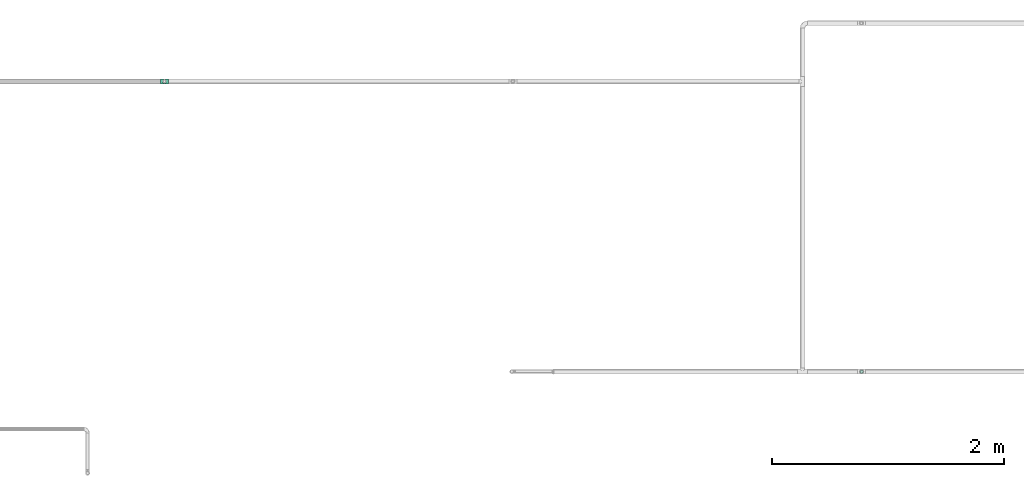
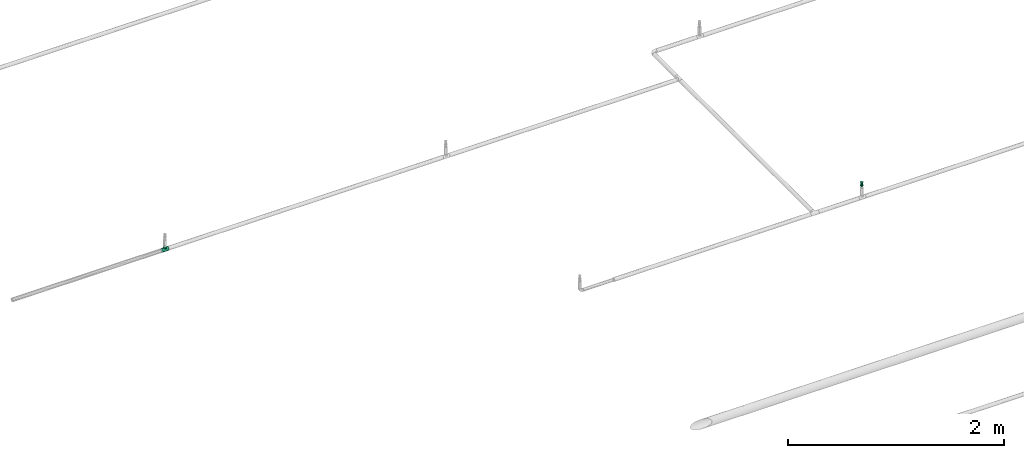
# One storey, part 41 of 94: 1 flow fitting, 1 flow terminal.
"""IFC2X3 building model written with IfcOpenShell, lengths in millimetres."""

from ifc_helpers import new_model, entity, si_unit, converted_unit, derived_unit, direction, frame, origin_with_axes, place, context, subcontext, project, spatial, open_shell, surface_model, source, transform, mapped, type_object, element, save


model = new_model("IFC2X3")

# Units and contexts
model_context = context("Model", 3, precision=0.01, world=frame((0.0, 4.29681676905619e-09, 0.0)), true_north=direction((4.01073788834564e-13, 1.0)))
plan_context = context("Plan", 3, precision=0.01, world=frame((0.0, 4.29681676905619e-09, 0.0)), true_north=direction((4.01073788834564e-13, 1.0)))
body_context = subcontext(model_context, "Body", "Model", "MODEL_VIEW")
ifc_project = project(units=[converted_unit("PLANEANGLEUNIT", "DEGREE", entity("IfcPositiveLengthMeasure", 0.0174532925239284), si_unit("PLANEANGLEUNIT", "RADIAN"), dimensions=[0, 0, 0, 0, 0, 0, 0]), si_unit("AREAUNIT", "SQUARE_METRE"), si_unit("LENGTHUNIT", "METRE", prefix="MILLI"), si_unit("MASSUNIT", "GRAM", prefix="KILO"), si_unit("POWERUNIT", "WATT"), si_unit("PRESSUREUNIT", "PASCAL"), si_unit("FORCEUNIT", "NEWTON", prefix="KILO"), si_unit("ELECTRICCURRENTUNIT", "AMPERE"), si_unit("THERMODYNAMICTEMPERATUREUNIT", "DEGREE_CELSIUS"), si_unit("TIMEUNIT", "SECOND"), si_unit("VOLUMEUNIT", "CUBIC_METRE"), derived_unit("LINEARVELOCITYUNIT", [(si_unit("LENGTHUNIT", "METRE"), 1), (si_unit("TIMEUNIT", "SECOND"), -1)]), derived_unit("VOLUMETRICFLOWRATEUNIT", [(si_unit("VOLUMEUNIT", "CUBIC_METRE"), 1), (si_unit("TIMEUNIT", "SECOND"), -1)]), derived_unit("THERMALTRANSMITTANCEUNIT", [(si_unit("POWERUNIT", "WATT"), 1), (si_unit("THERMODYNAMICTEMPERATUREUNIT", "KELVIN"), -1), (si_unit("AREAUNIT", "SQUARE_METRE"), -1)])], contexts=[model_context, plan_context])

# Site, building, storey
site_placement = place(None, frame((0.0, -4.29681676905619e-09, 0.0), z_axis=(0.0, 0.0, 1.0), x_axis=(1.0, 0.0, 0.0)))
site = spatial("IfcSite", under=ifc_project, at=site_placement, CompositionType="ELEMENT")
building_placement = place(site_placement, frame((0.0, 4.29681676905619e-09, 0.0), z_axis=(0.0, 0.0, 1.0), x_axis=(1.0, 0.0, 0.0)))
building = spatial("IfcBuilding", under=site, at=building_placement, Name="mc-building", CompositionType="ELEMENT")
storey_placement = place(building_placement, frame((0.0, 0.0, 200300.0), z_axis=(0.0, 0.0, 1.0), x_axis=(1.0, 0.0, 0.0)))
storey = spatial("IfcBuildingStorey", under=building, at=storey_placement, Name="Nivå C", CompositionType="ELEMENT", Elevation=200300.0)

# Flow fitting
pipe_fitting_type = type_object("IfcPipeFittingType", Name="magi_pipe_fe_tee_centric_90_NOR", PredefinedType="JUNCTION")
shared_shape_1 = source(origin_with_axes(), body_context, "Body", "SurfaceModel", [
    surface_model("IfcShellBasedSurfaceModel", [(-33.8, 0.0, -21.2), (-33.8, -5.48696, -20.47763), (-33.8, 5.48696, -20.47763), (-33.8, 10.6, -18.35974), (-33.8, 14.99066, -14.99066), (-33.8, -20.47763, 5.48696), (-33.8, 18.35974, -10.6), (-33.8, 10.6, 18.35974), (-33.8, -14.99066, -14.99066), (-33.8, -18.35974, -10.6), (-33.8, -10.6, -18.35974), (-33.8, -20.47763, -5.48696), (-33.8, -21.2, 0.0), (-33.8, 18.35974, 10.6), (-33.8, 20.47763, -5.48696), (-33.8, 20.47763, 5.48696), (-33.8, 21.2, 0.0), (-33.8, 14.99066, 14.99066), (-33.8, 5.48696, 20.47763), (-33.8, 0.0, 21.2), (-33.8, -18.35974, 10.6), (-33.8, -14.99066, 14.99066), (-33.8, -10.6, 18.35974), (-33.8, -5.48696, 20.47763), (33.8, 5.48696, -20.47763), (33.8, -5.48696, -20.47763), (33.8, 0.0, -21.2), (33.8, 14.99066, -14.99066), (33.8, 10.6, -18.35974), (33.8, 18.35974, -10.6), (33.8, 20.47763, -5.48696), (33.8, -21.2, 0.0), (33.8, -10.6, -18.35974), (33.8, -18.35974, -10.6), (33.8, -14.99066, -14.99066), (33.8, -20.47763, -5.48696), (33.8, -20.47763, 5.48696), (33.8, 21.2, 0.0), (33.8, 20.47763, 5.48696), (33.8, 18.35974, 10.6), (33.8, 10.6, 18.35974), (33.8, 14.99066, 14.99066), (33.8, 0.0, 21.2), (33.8, 5.48696, 20.47763), (33.8, -14.99066, 14.99066), (33.8, -18.35974, 10.6), (33.8, -10.6, 18.35974), (33.8, -5.48696, 20.47763), (16.9, -21.2, 0.0), (15.78624, -20.32327, 6.03364), (12.81343, -18.11115, 11.01935), (8.52479, -15.37862, 14.59239), (3.07939, -13.16482, 16.61708), (-16.9, -21.2, 0.0), (-15.78686, -20.32375, 6.032), (-8.52604, -15.37932, 14.59166), (-3.0848, -13.16609, 16.61608), (-12.81602, -18.11299, 11.01634), (3.07939, -13.16482, -16.61708), (12.81343, -18.11115, -11.01935), (8.52479, -15.37862, -14.59239), (15.78624, -20.32327, -6.03364), (-3.0848, -13.16609, -16.61608), (-8.52604, -15.37932, -14.59166), (-12.81602, -18.11299, -11.01634), (-15.78686, -20.32375, -6.032), (4.37404, -31.8, -16.32415), (-16.9, -31.8, 0.0), (0.0, -31.8, -16.9), (14.63583, -31.8, -8.45), (8.45, -31.8, -14.63583), (16.32415, -31.8, -4.37404), (11.9501, -31.8, -11.9501), (-11.9501, -31.8, -11.9501), (-8.45, -31.8, -14.63583), (-4.37404, -31.8, -16.32415), (-14.63583, -31.8, -8.45), (-16.32415, -31.8, -4.37404), (16.9, -31.8, 0.0), (8.45, -31.8, 14.63583), (16.32415, -31.8, 4.37404), (14.63583, -31.8, 8.45), (-8.45, -31.8, 14.63583), (11.9501, -31.8, 11.9501), (4.37404, -31.8, 16.32415), (-16.32415, -31.8, 4.37404), (-11.9501, -31.8, 11.9501), (-14.63583, -31.8, 8.45), (0.0, -31.8, 16.9), (-4.37404, -31.8, 16.32415), (-16.34343, -20.76188, 3.016), (16.34312, -20.76163, 3.01682), (-0.00271, -13.16546, 16.61658), (16.34312, -20.76163, -3.01682), (-0.00271, -13.16546, -16.61658), (-16.34343, -20.76188, -3.016)], [open_shell([[[0, 1, 2]], [[3, 2, 4]], [[5, 2, 1]], [[4, 2, 6]], [[6, 2, 7]], [[8, 9, 10]], [[1, 10, 9]], [[9, 11, 1]], [[12, 1, 11]], [[5, 1, 12]], [[13, 14, 6]], [[13, 15, 16]], [[6, 7, 13]], [[5, 7, 2]], [[17, 13, 7]], [[18, 7, 19]], [[20, 21, 5]], [[22, 5, 21]], [[23, 19, 22]], [[7, 5, 22]], [[22, 19, 7]], [[16, 14, 13]], [[24, 25, 26]], [[27, 24, 28]], [[29, 30, 24]], [[29, 24, 27]], [[31, 24, 30]], [[32, 33, 34]], [[33, 32, 25]], [[33, 31, 35]], [[31, 33, 25]], [[25, 24, 31]], [[30, 36, 31]], [[37, 38, 39]], [[37, 39, 40]], [[37, 40, 36]], [[40, 39, 41]], [[42, 40, 43]], [[36, 44, 45]], [[44, 36, 46]], [[46, 42, 47]], [[46, 36, 40]], [[40, 42, 46]], [[37, 36, 30]], [[31, 36, 48]], [[49, 48, 36]], [[36, 45, 49]], [[45, 44, 50]], [[51, 50, 44]], [[52, 51, 44]], [[44, 46, 52]], [[45, 50, 49]], [[53, 54, 5]], [[5, 12, 53]], [[54, 20, 5]], [[55, 56, 21]], [[20, 57, 21]], [[57, 20, 54]], [[21, 57, 55]], [[56, 22, 21]], [[52, 22, 56]], [[19, 47, 42]], [[23, 46, 47]], [[18, 42, 43]], [[39, 38, 15]], [[17, 40, 41]], [[13, 41, 39]], [[43, 40, 7]], [[16, 38, 37]], [[22, 46, 23]], [[23, 47, 19]], [[18, 19, 42]], [[43, 7, 18]], [[7, 40, 17]], [[13, 17, 41]], [[15, 13, 39]], [[38, 16, 15]], [[46, 22, 52]], [[6, 30, 29]], [[14, 37, 30]], [[4, 29, 27]], [[26, 25, 1]], [[2, 28, 24]], [[0, 24, 26]], [[27, 28, 3]], [[10, 25, 32]], [[16, 37, 14]], [[14, 30, 6]], [[4, 6, 29]], [[27, 3, 4]], [[3, 28, 2]], [[0, 2, 24]], [[1, 0, 26]], [[25, 10, 1]], [[32, 58, 10]], [[34, 59, 60]], [[59, 34, 33]], [[60, 58, 34]], [[34, 58, 32]], [[35, 31, 48]], [[35, 61, 33]], [[61, 35, 48]], [[33, 61, 59]], [[62, 63, 8]], [[8, 64, 9]], [[64, 8, 63]], [[62, 8, 10]], [[65, 53, 11]], [[65, 11, 9]], [[11, 53, 12]], [[65, 9, 64]], [[58, 62, 10]], [[66, 67, 68]], [[69, 66, 70]], [[69, 71, 66]], [[69, 70, 72]], [[67, 66, 71]], [[68, 73, 74]], [[74, 75, 68]], [[76, 67, 77]], [[73, 68, 76]], [[67, 76, 68]], [[71, 78, 67]], [[79, 78, 80]], [[79, 80, 81]], [[82, 67, 79]], [[79, 81, 83]], [[82, 79, 84]], [[85, 86, 87]], [[86, 85, 82]], [[82, 88, 89]], [[85, 67, 82]], [[84, 88, 82]], [[79, 67, 78]], [[85, 90, 67]], [[57, 87, 86]], [[85, 87, 54]], [[86, 82, 55]], [[85, 54, 90]], [[90, 53, 67]], [[54, 87, 57]], [[91, 49, 80]], [[55, 89, 56]], [[55, 57, 86]], [[88, 52, 92]], [[55, 82, 89]], [[52, 88, 84]], [[79, 51, 84]], [[50, 83, 81]], [[83, 51, 79]], [[81, 80, 49]], [[83, 50, 51]], [[51, 52, 84]], [[78, 91, 80]], [[49, 50, 81]], [[91, 78, 48]], [[88, 56, 89]], [[92, 56, 88]], [[71, 93, 78]], [[59, 69, 72]], [[71, 69, 61]], [[72, 70, 60]], [[93, 48, 78]], [[61, 69, 59]], [[60, 66, 58]], [[60, 59, 72]], [[68, 62, 94]], [[60, 70, 66]], [[95, 67, 53]], [[95, 65, 77]], [[71, 61, 93]], [[75, 62, 68]], [[65, 76, 77]], [[73, 76, 64]], [[68, 58, 66]], [[75, 63, 62]], [[63, 75, 74]], [[74, 73, 63]], [[63, 73, 64]], [[64, 76, 65]], [[67, 95, 77]], [[94, 58, 68]]])]),
])
flow_fitting_placement = place(storey_placement, frame((515497.26879, 412998.99053, 2850.0), z_axis=(0.0, -1.0, 0.0), x_axis=(-1.0, 0.0, 0.0)))
element("IfcFlowFitting", 1, at=flow_fitting_placement, inside=storey, type_object=pipe_fitting_type, Name="magi_pipe_fe_tee_centric_90_NOR", context=body_context, shape_type="MappedRepresentation", body=[
    mapped(shared_shape_1, transform((0.0, 0.0, 0.0), scale=1.0)),
])

# Flow terminal
fire_suppression_terminal_type = type_object("IfcFireSuppressionTerminalType", Name="68DGR-STD-STÅENDE", PredefinedType="NOTDEFINED")
shared_shape_2 = source(origin_with_axes(), body_context, "Body", "SurfaceModel", [
    surface_model("IfcShellBasedSurfaceModel", [(12.55704, 3.36465, 21.14766), (13.0, 0.0, 21.14766), (12.55704, -3.36465, 21.14766), (-12.55704, -3.36465, 21.14766), (-11.25833, -6.5, 21.14766), (-11.25833, -6.5, 51.0), (3.36465, -12.55704, 51.0), (3.36465, -12.55704, 21.14766), (6.5, -11.25833, 21.14766), (9.19239, -9.19239, 21.14766), (11.25833, -6.5, 21.14766), (9.19239, -9.19239, 51.0), (6.5, -11.25833, 51.0), (11.25833, -6.5, 51.0), (12.55704, -3.36465, 51.0), (13.0, 0.0, 51.0), (9.19239, 9.19239, 51.0), (11.25833, 6.5, 21.14766), (9.19239, 9.19239, 21.14766), (11.25833, 6.5, 51.0), (12.55704, 3.36465, 51.0), (6.5, 11.25833, 51.0), (6.5, 11.25833, 21.14766), (3.36465, 12.55704, 21.14766), (3.36465, 12.55704, 51.0), (-11.25833, 6.5, 51.0), (-11.25833, 6.5, 21.14766), (-12.55704, 3.36465, 21.14766), (0.0, -2.5, 51.0), (-2.5, 0.0, 51.0), (0.0, 2.5, 51.0), (2.5, 0.0, 51.0), (11.31371, 11.31371, 53.0), (-11.31371, 11.31371, 53.0), (-11.31371, -11.31371, 53.0), (11.31371, -11.31371, 53.0), (1.62635, 1.62635, 51.0), (2.16506, 1.25, 51.0), (1.99186, 1.15, 51.0), (-1.76777, 1.76777, 51.0), (-1.25, 2.16506, 51.0), (-1.62635, 1.62635, 51.0), (1.99186, -1.15, 51.0), (2.16506, -1.25, 51.0), (1.62635, -1.62635, 51.0), (-1.62635, -1.62635, 51.0), (-1.25, -2.16506, 51.0), (-1.76777, -1.76777, 51.0), (0.0, 7.3, 0.0), (1.94114, 7.24444, 0.0), (1.88938, 7.05126, 0.0), (5.16188, 5.16188, 0.0), (6.49519, 3.75, 0.0), (6.32199, 3.65, 0.0), (-5.3033, 5.3033, 0.0), (-3.75, 6.49519, 0.0), (-5.16188, 5.16188, 0.0), (6.32199, -3.65, 0.0), (6.49519, -3.75, 0.0), (5.16188, -5.16188, 0.0), (1.88938, -7.05126, 0.0), (1.94114, -7.24444, 0.0), (0.0, -7.3, 0.0), (-5.16188, -5.16188, 0.0), (-3.75, -6.49519, 0.0), (-5.3033, -5.3033, 0.0), (-3.36465, 12.55704, 51.0), (-6.5, 11.25833, 51.0), (0.0, 13.0, 51.0), (-9.19239, 9.19239, 51.0), (0.0, -13.0, 51.0), (-9.19239, -9.19239, 51.0), (-12.55704, -3.36465, 51.0), (-6.5, -11.25833, 51.0), (-3.36465, -12.55704, 51.0), (-7.5, 0.0, -0.1), (-7.24444, 1.94114, 0.1), (-7.24444, 1.94114, -0.1), (-6.49519, 3.75, 0.1), (-6.49519, 3.75, -0.1), (-3.75, 6.49519, -0.1), (-5.3033, 5.3033, -0.1), (-3.75, 6.49519, 0.1), (-5.3033, 5.3033, 0.1), (-1.94114, 7.24444, -0.1), (-1.94114, 7.24444, 0.1), (-7.5, 0.0, 0.1), (0.0, 7.5, 0.1), (0.0, 7.5, -0.1), (1.94114, 7.24444, 0.1), (1.94114, 7.24444, -0.1), (3.75, 6.49519, 0.1), (3.75, 6.49519, -0.1), (6.49519, 3.75, -0.1), (5.3033, 5.3033, -0.1), (6.49519, 3.75, 0.1), (5.3033, 5.3033, 0.1), (7.24444, 1.94114, -0.1), (7.24444, 1.94114, 0.1), (7.5, 0.0, 0.1), (7.5, 0.0, -0.1), (-7.24444, -1.94114, 0.1), (7.24444, -1.94114, 0.1), (5.3033, -5.3033, 0.1), (6.49519, -3.75, 0.1), (-6.49519, -3.75, 0.1), (0.0, -7.5, 0.1), (1.94114, -7.24444, 0.1), (3.75, -6.49519, 0.1), (-3.75, -6.49519, 0.1), (-1.94114, -7.24444, 0.1), (-5.3033, -5.3033, 0.1), (0.0, -7.5, -0.1), (-6.49519, -3.75, -0.1), (1.94114, -7.24444, -0.1), (3.75, -6.49519, -0.1), (5.3033, -5.3033, -0.1), (7.24444, -1.94114, -0.1), (6.49519, -3.75, -0.1), (-3.75, -6.49519, -0.1), (-5.3033, -5.3033, -0.1), (-1.94114, -7.24444, -0.1), (-7.24444, -1.94114, -0.1), (16.0, 0.0, 53.0), (0.0, -16.0, 53.0), (-16.0, 0.0, 53.0), (0.0, 16.0, 53.0), (0.64705, 2.41481, 57.0), (0.0, 2.5, 57.0), (1.25, 2.16506, 57.0), (-2.5, 0.0, 57.0), (1.76777, 1.76777, 57.0), (2.41481, 0.64705, 57.0), (2.16506, 1.25, 57.0), (-0.64705, 2.41481, 57.0), (-1.25, 2.16506, 57.0), (-1.76777, 1.76777, 57.0), (-2.16506, 1.25, 57.0), (-2.41481, 0.64705, 57.0), (2.5, 0.0, 57.0), (1.76777, -1.76777, 57.0), (2.16506, -1.25, 57.0), (2.41481, -0.64705, 57.0), (-2.41481, -0.64705, 57.0), (0.64705, -2.41481, 57.0), (1.25, -2.16506, 57.0), (0.0, -2.5, 57.0), (-1.76777, -1.76777, 57.0), (-2.16506, -1.25, 57.0), (-1.25, -2.16506, 57.0), (-0.64705, -2.41481, 57.0), (1.15, -1.99186, 51.0), (1.76777, -1.76777, 51.0), (1.25, -2.16506, 51.0), (0.59528, -2.22163, 51.0), (0.0, -2.3, 51.0), (0.64705, -2.41481, 51.0), (2.22163, -0.59528, 51.0), (2.3, 0.0, 51.0), (2.41481, -0.64705, 51.0), (-0.64705, -2.41481, 51.0), (-0.59528, -2.22163, 51.0), (-1.15, -1.99186, 51.0), (-2.16506, -1.25, 51.0), (-1.99186, -1.15, 51.0), (-2.22163, -0.59528, 51.0), (-2.3, 0.0, 51.0), (-2.41481, -0.64705, 51.0), (2.22163, 0.59528, 51.0), (2.41481, 0.64705, 51.0), (1.76777, 1.76777, 51.0), (1.15, 1.99186, 51.0), (1.25, 2.16506, 51.0), (0.59528, 2.22163, 51.0), (0.0, 2.3, 51.0), (0.64705, 2.41481, 51.0), (-1.99186, 1.15, 51.0), (-2.16506, 1.25, 51.0), (-2.41481, 0.64705, 51.0), (-2.22163, 0.59528, 51.0), (-0.64705, 2.41481, 51.0), (-0.59528, 2.22163, 51.0), (-1.15, 1.99186, 51.0), (-2.22163, 0.59528, 56.8), (-1.99186, 1.15, 56.8), (-1.15, 1.99186, 56.8), (-1.62635, 1.62635, 56.8), (-0.59528, 2.22163, 56.8), (-2.3, 0.0, 56.8), (0.0, 2.3, 56.8), (0.59528, 2.22163, 56.8), (1.15, 1.99186, 56.8), (1.99186, 1.15, 56.8), (1.62635, 1.62635, 56.8), (2.22163, 0.59528, 56.8), (2.3, 0.0, 56.8), (2.22163, -0.59528, 56.8), (1.99186, -1.15, 56.8), (1.62635, -1.62635, 56.8), (1.15, -1.99186, 56.8), (0.59528, -2.22163, 56.8), (0.0, -2.3, 56.8), (-1.99186, -1.15, 56.8), (-2.22163, -0.59528, 56.8), (-1.62635, -1.62635, 56.8), (-0.59528, -2.22163, 56.8), (-1.15, -1.99186, 56.8), (8.0, -13.85641, 13.0), (4.1411, -15.45481, 13.0), (0.0, -16.0, 13.0), (-4.1411, -15.45481, 13.0), (15.45481, -4.1411, 13.0), (13.85641, -8.0, 13.0), (11.31371, -11.31371, 13.0), (-16.0, 0.0, 13.0), (-8.0, -13.85641, 13.0), (-11.31371, -11.31371, 13.0), (-13.85641, -8.0, 13.0), (-15.45481, -4.1411, 13.0), (15.45481, 4.1411, 13.0), (4.1411, 15.45481, 13.0), (13.85641, 8.0, 13.0), (8.0, 13.85641, 13.0), (11.31371, 11.31371, 13.0), (-15.45481, 4.1411, 13.0), (-11.31371, 11.31371, 13.0), (-8.0, 13.85641, 13.0), (-13.85641, 8.0, 13.0), (-4.1411, 15.45481, 13.0), (0.0, 16.0, 13.0), (16.0, 0.0, 13.0), (7.05126, 1.88938, 12.8), (1.88938, 7.05126, 12.8), (3.65, 6.32199, 12.8), (6.32199, 3.65, 12.8), (5.16188, 5.16188, 12.8), (7.3, 0.0, 12.8), (0.0, 7.3, 12.8), (-3.65, 6.32199, 12.8), (-1.88938, 7.05126, 12.8), (-5.16188, 5.16188, 12.8), (-7.05126, 1.88938, 12.8), (-6.32199, 3.65, 12.8), (7.05126, -1.88938, 12.8), (0.0, -7.3, 12.8), (6.32199, -3.65, 12.8), (3.65, -6.32199, 12.8), (5.16188, -5.16188, 12.8), (1.88938, -7.05126, 12.8), (-7.3, 0.0, 12.8), (-6.32199, -3.65, 12.8), (-7.05126, -1.88938, 12.8), (-1.88938, -7.05126, 12.8), (-5.16188, -5.16188, 12.8), (-3.65, -6.32199, 12.8), (-7.05126, 1.88938, 0.0), (-7.3, 0.0, 0.0), (-6.32199, 3.65, 0.0), (-3.65, 6.32199, 0.0), (-1.88938, 7.05126, 0.0), (3.65, 6.32199, 0.0), (7.05126, 1.88938, 0.0), (7.3, 0.0, 0.0), (3.75, 6.49519, 13.0), (1.94114, 7.24444, 13.0), (7.5, 0.0, 13.0), (5.3033, 5.3033, 13.0), (7.24444, 1.94114, 13.0), (6.49519, 3.75, 13.0), (-5.3033, 5.3033, 13.0), (-7.24444, -1.94114, 13.0), (-1.94114, 7.24444, 13.0), (-3.75, 6.49519, 13.0), (0.0, 7.5, 13.0), (-6.49519, 3.75, 13.0), (-7.24444, 1.94114, 13.0), (7.24444, -1.94114, 13.0), (5.3033, -5.3033, 13.0), (6.49519, -3.75, 13.0), (-6.49519, -3.75, 13.0), (0.0, -7.5, 13.0), (1.94114, -7.24444, 13.0), (3.75, -6.49519, 13.0), (-7.5, 0.0, 13.0), (-3.75, -6.49519, 13.0), (-1.94114, -7.24444, 13.0), (-5.3033, -5.3033, 13.0), (3.65, -6.32199, 0.0), (5.3033, -5.3033, 0.0), (3.75, -6.49519, 0.0), (0.0, -7.5, 0.0), (7.05126, -1.88938, 0.0), (7.24444, -1.94114, 0.0), (7.5, 0.0, 0.0), (-1.94114, -7.24444, 0.0), (-1.88938, -7.05126, 0.0), (-3.65, -6.32199, 0.0), (-6.49519, -3.75, 0.0), (-6.32199, -3.65, 0.0), (-7.05126, -1.88938, 0.0), (-7.24444, -1.94114, 0.0), (-7.5, 0.0, 0.0), (7.24444, 1.94114, 0.0), (5.3033, 5.3033, 0.0), (3.75, 6.49519, 0.0), (0.0, 7.5, 0.0), (-6.49519, 3.75, 0.0), (-7.24444, 1.94114, 0.0), (-1.94114, 7.24444, 0.0), (-12.55704, 3.36465, 51.0), (-13.0, 0.0, 51.0), (0.0, -13.0, 21.14766), (-3.36465, -12.55704, 21.14766), (-6.5, -11.25833, 21.14766), (-9.19239, -9.19239, 21.14766), (-13.0, 0.0, 21.14766), (-9.19239, 9.19239, 21.14766), (-6.5, 11.25833, 21.14766), (-3.36465, 12.55704, 21.14766), (0.0, 13.0, 21.14766), (11.31371, 11.31371, 19.0), (8.0, 13.85641, 19.0), (4.1411, 15.45481, 19.0), (-8.0, 13.85641, 19.0), (16.0, 0.0, 19.0), (15.45481, 4.1411, 19.0), (13.85641, 8.0, 19.0), (-4.1411, 15.45481, 19.0), (0.0, 16.0, 19.0), (-11.31371, 11.31371, 19.0), (-13.85641, 8.0, 19.0), (-15.45481, 4.1411, 19.0), (15.45481, -4.1411, 19.0), (11.31371, -11.31371, 19.0), (13.85641, -8.0, 19.0), (-16.0, 0.0, 19.0), (0.0, -16.0, 19.0), (4.1411, -15.45481, 19.0), (8.0, -13.85641, 19.0), (-13.85641, -8.0, 19.0), (-11.31371, -11.31371, 19.0), (-15.45481, -4.1411, 19.0), (-8.0, -13.85641, 19.0), (-4.1411, -15.45481, 19.0)], [open_shell([[[0, 1, 2]], [[3, 4, 5]], [[6, 7, 8]], [[9, 10, 11]], [[9, 11, 12]], [[10, 13, 11]], [[14, 13, 2]], [[1, 15, 14]], [[16, 17, 18]], [[0, 19, 20]], [[20, 15, 1]], [[21, 16, 18]], [[22, 23, 24]], [[16, 19, 17]], [[25, 26, 27]], [[28, 29, 30]], [[30, 31, 28]], [[31, 30, 32]], [[33, 30, 29]], [[29, 28, 34]], [[35, 28, 31]], [[36, 37, 38]], [[39, 40, 41]], [[42, 43, 44]], [[45, 46, 47]], [[48, 49, 50]], [[51, 52, 53]], [[54, 55, 56]], [[57, 58, 59]], [[60, 61, 62]], [[63, 64, 65]], [[66, 67, 68]], [[67, 24, 68]], [[69, 25, 67]], [[15, 20, 14]], [[70, 6, 12]], [[5, 71, 72]], [[73, 74, 71]], [[72, 71, 74]], [[75, 76, 77]], [[77, 78, 79]], [[80, 81, 82]], [[83, 81, 79]], [[84, 80, 85]], [[76, 78, 77]], [[75, 86, 76]], [[80, 82, 85]], [[82, 81, 83]], [[79, 78, 83]], [[84, 85, 87]], [[87, 88, 84]], [[88, 89, 90]], [[90, 91, 92]], [[93, 94, 95]], [[96, 94, 92]], [[97, 93, 98]], [[91, 96, 92]], [[90, 89, 91]], [[97, 98, 99]], [[98, 93, 95]], [[94, 96, 95]], [[97, 99, 100]], [[87, 89, 88]], [[91, 89, 99]], [[96, 91, 98]], [[91, 99, 98]], [[95, 96, 98]], [[89, 83, 101]], [[85, 82, 87]], [[83, 87, 82]], [[78, 76, 83]], [[89, 87, 83]], [[76, 101, 83]], [[102, 99, 89]], [[103, 104, 102]], [[89, 105, 103]], [[103, 106, 107]], [[108, 103, 107]], [[106, 103, 105]], [[89, 101, 105]], [[101, 76, 86]], [[109, 110, 111]], [[105, 111, 110]], [[106, 105, 110]], [[103, 102, 89]], [[112, 113, 114]], [[115, 114, 116]], [[117, 118, 116]], [[113, 116, 114]], [[116, 113, 117]], [[119, 120, 121]], [[113, 121, 120]], [[121, 113, 112]], [[113, 122, 117]], [[75, 77, 122]], [[100, 117, 122]], [[100, 81, 97]], [[93, 97, 90]], [[90, 92, 94]], [[93, 90, 94]], [[90, 97, 81]], [[79, 81, 77]], [[77, 81, 122]], [[84, 88, 80]], [[81, 80, 88]], [[81, 88, 90]], [[100, 122, 81]], [[100, 102, 117]], [[117, 104, 118]], [[115, 116, 108]], [[103, 116, 118]], [[114, 115, 107]], [[102, 104, 117]], [[100, 99, 102]], [[115, 108, 107]], [[108, 116, 103]], [[118, 104, 103]], [[114, 107, 106]], [[106, 112, 114]], [[112, 110, 121]], [[121, 109, 119]], [[113, 120, 105]], [[111, 120, 119]], [[122, 113, 101]], [[109, 111, 119]], [[121, 110, 109]], [[122, 101, 86]], [[101, 113, 105]], [[120, 111, 105]], [[122, 86, 75]], [[106, 110, 112]], [[31, 123, 35]], [[35, 124, 28]], [[124, 34, 28]], [[29, 34, 125]], [[33, 32, 126]], [[33, 125, 124]], [[124, 32, 33]], [[124, 35, 123]], [[124, 125, 34]], [[123, 32, 124]], [[29, 125, 33]], [[33, 126, 30]], [[126, 32, 30]], [[31, 32, 123]], [[127, 128, 129]], [[129, 130, 131]], [[132, 131, 130]], [[133, 131, 132]], [[130, 129, 128]], [[134, 135, 128]], [[136, 128, 135]], [[137, 138, 136]], [[128, 136, 130]], [[138, 130, 136]], [[139, 132, 130]], [[140, 141, 142]], [[143, 140, 139]], [[144, 140, 143]], [[145, 140, 144]], [[146, 144, 147]], [[139, 130, 143]], [[143, 148, 144]], [[149, 150, 147]], [[144, 148, 147]], [[146, 147, 150]], [[140, 142, 139]], [[151, 152, 153]], [[154, 151, 153]], [[155, 154, 156]], [[153, 156, 154]], [[28, 155, 156]], [[44, 152, 151]], [[157, 158, 159]], [[31, 159, 158]], [[43, 157, 159]], [[152, 44, 43]], [[157, 43, 42]], [[160, 161, 28]], [[161, 155, 28]], [[162, 161, 160]], [[160, 46, 162]], [[162, 46, 45]], [[47, 163, 164]], [[165, 164, 163]], [[45, 47, 164]], [[166, 165, 167]], [[163, 167, 165]], [[29, 166, 167]], [[168, 169, 31]], [[38, 169, 168]], [[169, 38, 37]], [[170, 37, 36]], [[171, 172, 170]], [[173, 172, 171]], [[174, 175, 173]], [[172, 173, 175]], [[30, 175, 174]], [[170, 36, 171]], [[39, 176, 177]], [[41, 176, 39]], [[178, 177, 176]], [[178, 179, 29]], [[176, 179, 178]], [[179, 166, 29]], [[180, 30, 181]], [[182, 180, 181]], [[182, 41, 40]], [[180, 182, 40]], [[181, 30, 174]], [[31, 158, 168]], [[29, 138, 178]], [[178, 137, 177]], [[40, 39, 135]], [[136, 39, 177]], [[180, 40, 134]], [[138, 137, 178]], [[29, 130, 138]], [[40, 135, 134]], [[135, 39, 136]], [[177, 137, 136]], [[180, 134, 128]], [[128, 30, 180]], [[30, 127, 175]], [[175, 129, 172]], [[37, 170, 133]], [[131, 170, 172]], [[169, 37, 132]], [[129, 131, 172]], [[175, 127, 129]], [[169, 132, 139]], [[132, 37, 133]], [[170, 131, 133]], [[169, 139, 31]], [[128, 127, 30]], [[179, 183, 166]], [[176, 184, 179]], [[185, 41, 182]], [[176, 41, 186]], [[187, 182, 181]], [[179, 184, 183]], [[183, 188, 166]], [[187, 185, 182]], [[186, 41, 185]], [[186, 184, 176]], [[189, 187, 181]], [[181, 174, 189]], [[173, 190, 174]], [[171, 191, 173]], [[192, 36, 38]], [[171, 36, 193]], [[194, 38, 168]], [[171, 193, 191]], [[191, 190, 173]], [[195, 194, 168]], [[192, 38, 194]], [[192, 193, 36]], [[158, 195, 168]], [[174, 190, 189]], [[31, 142, 159]], [[159, 141, 43]], [[153, 152, 145]], [[140, 152, 43]], [[156, 153, 144]], [[142, 141, 159]], [[31, 139, 142]], [[153, 145, 144]], [[145, 152, 140]], [[43, 141, 140]], [[156, 144, 146]], [[146, 28, 156]], [[28, 150, 160]], [[160, 149, 46]], [[163, 47, 148]], [[147, 47, 46]], [[167, 163, 143]], [[149, 147, 46]], [[160, 150, 149]], [[167, 143, 130]], [[143, 163, 148]], [[47, 147, 148]], [[167, 130, 29]], [[146, 150, 28]], [[190, 191, 193]], [[190, 193, 195]], [[194, 195, 193]], [[194, 193, 192]], [[190, 195, 186]], [[189, 185, 187]], [[185, 189, 186]], [[186, 183, 184]], [[186, 189, 190]], [[186, 196, 183]], [[186, 195, 196]], [[196, 197, 198]], [[196, 198, 199]], [[199, 200, 201]], [[199, 201, 196]], [[196, 201, 202]], [[188, 202, 203]], [[183, 202, 188]], [[204, 205, 206]], [[205, 204, 202]], [[201, 205, 202]], [[202, 183, 196]], [[157, 196, 158]], [[42, 197, 157]], [[199, 44, 151]], [[42, 44, 198]], [[200, 151, 154]], [[157, 197, 196]], [[196, 195, 158]], [[200, 199, 151]], [[198, 44, 199]], [[198, 197, 42]], [[201, 200, 154]], [[154, 155, 201]], [[161, 205, 155]], [[162, 206, 161]], [[202, 45, 164]], [[162, 45, 204]], [[203, 164, 165]], [[162, 204, 206]], [[206, 205, 161]], [[188, 203, 165]], [[202, 164, 203]], [[202, 204, 45]], [[166, 188, 165]], [[155, 205, 201]], [[207, 208, 209]], [[207, 209, 210]], [[211, 212, 213]], [[213, 207, 214]], [[211, 213, 214]], [[215, 216, 210]], [[217, 210, 216]], [[217, 218, 210]], [[218, 207, 210]], [[218, 214, 207]], [[214, 219, 211]], [[220, 219, 214]], [[221, 219, 220]], [[220, 222, 223]], [[221, 220, 223]], [[214, 224, 220]], [[225, 226, 227]], [[224, 227, 226]], [[228, 229, 226]], [[220, 224, 226]], [[226, 229, 220]], [[219, 230, 211]], [[231, 232, 233]], [[234, 233, 235]], [[231, 236, 232]], [[231, 233, 234]], [[232, 236, 237]], [[237, 238, 239]], [[238, 237, 240]], [[240, 241, 242]], [[240, 237, 236]], [[236, 241, 240]], [[236, 243, 241]], [[244, 243, 245]], [[246, 245, 247]], [[246, 248, 244]], [[246, 244, 245]], [[243, 244, 249]], [[249, 250, 251]], [[250, 249, 252]], [[253, 252, 254]], [[252, 253, 250]], [[249, 244, 252]], [[243, 249, 241]], [[255, 241, 256]], [[257, 242, 255]], [[238, 56, 258]], [[257, 56, 240]], [[239, 258, 259]], [[255, 242, 241]], [[241, 249, 256]], [[239, 238, 258]], [[240, 56, 238]], [[240, 242, 257]], [[237, 239, 259]], [[259, 48, 237]], [[50, 232, 48]], [[260, 233, 50]], [[234, 51, 53]], [[260, 51, 235]], [[231, 53, 261]], [[260, 235, 233]], [[233, 232, 50]], [[236, 231, 261]], [[234, 53, 231]], [[234, 235, 51]], [[262, 236, 261]], [[48, 232, 237]], [[263, 264, 265]], [[266, 263, 267]], [[263, 265, 267]], [[268, 266, 267]], [[264, 269, 270]], [[271, 272, 273]], [[269, 273, 272]], [[274, 275, 269]], [[264, 273, 269]], [[275, 270, 269]], [[276, 265, 264]], [[277, 278, 276]], [[264, 279, 277]], [[277, 280, 281]], [[282, 277, 281]], [[280, 277, 279]], [[264, 270, 279]], [[270, 275, 283]], [[284, 285, 286]], [[279, 286, 285]], [[280, 279, 285]], [[277, 276, 264]], [[287, 288, 289]], [[60, 287, 289]], [[290, 62, 61]], [[289, 61, 60]], [[59, 288, 287]], [[291, 262, 292]], [[293, 292, 262]], [[58, 291, 292]], [[288, 59, 58]], [[291, 58, 57]], [[294, 295, 290]], [[296, 295, 294]], [[294, 64, 296]], [[64, 63, 296]], [[295, 62, 290]], [[65, 297, 298]], [[299, 298, 297]], [[63, 65, 298]], [[256, 299, 300]], [[297, 300, 299]], [[301, 256, 300]], [[261, 302, 293]], [[53, 302, 261]], [[302, 53, 52]], [[303, 52, 51]], [[260, 304, 303]], [[50, 304, 260]], [[304, 50, 49]], [[305, 49, 48]], [[303, 51, 260]], [[54, 257, 306]], [[56, 257, 54]], [[307, 306, 257]], [[307, 255, 301]], [[257, 255, 307]], [[255, 256, 301]], [[308, 305, 259]], [[258, 308, 259]], [[55, 258, 56]], [[308, 258, 55]], [[259, 305, 48]], [[293, 262, 261]], [[301, 275, 307]], [[307, 274, 306]], [[55, 54, 272]], [[269, 54, 306]], [[308, 55, 271]], [[275, 274, 307]], [[301, 283, 275]], [[55, 272, 271]], [[272, 54, 269]], [[306, 274, 269]], [[308, 271, 273]], [[273, 305, 308]], [[305, 264, 49]], [[49, 263, 304]], [[52, 303, 268]], [[266, 303, 304]], [[302, 52, 267]], [[263, 266, 304]], [[49, 264, 263]], [[302, 267, 265]], [[267, 52, 268]], [[303, 266, 268]], [[302, 265, 293]], [[273, 264, 305]], [[293, 276, 292]], [[292, 278, 58]], [[289, 288, 282]], [[277, 288, 58]], [[61, 289, 281]], [[276, 278, 292]], [[293, 265, 276]], [[289, 282, 281]], [[282, 288, 277]], [[58, 278, 277]], [[61, 281, 280]], [[280, 290, 61]], [[290, 285, 294]], [[294, 284, 64]], [[297, 65, 279]], [[286, 65, 64]], [[300, 297, 270]], [[284, 286, 64]], [[294, 285, 284]], [[300, 270, 283]], [[270, 297, 279]], [[65, 286, 279]], [[300, 283, 301]], [[280, 285, 290]], [[291, 243, 262]], [[57, 245, 291]], [[246, 59, 287]], [[57, 59, 247]], [[248, 287, 60]], [[291, 245, 243]], [[243, 236, 262]], [[248, 246, 287]], [[247, 59, 246]], [[247, 245, 57]], [[244, 248, 60]], [[60, 62, 244]], [[295, 252, 62]], [[296, 254, 295]], [[250, 63, 298]], [[296, 63, 253]], [[251, 298, 299]], [[296, 253, 254]], [[254, 252, 295]], [[249, 251, 299]], [[250, 298, 251]], [[250, 253, 63]], [[256, 249, 299]], [[62, 252, 244]], [[16, 21, 24]], [[20, 16, 24]], [[24, 67, 72]], [[19, 16, 20]], [[24, 72, 20]], [[25, 72, 67]], [[309, 310, 25]], [[11, 13, 14]], [[72, 11, 20]], [[74, 12, 11]], [[12, 74, 70]], [[72, 25, 310]], [[72, 74, 11]], [[11, 14, 20]], [[8, 7, 311]], [[8, 311, 312]], [[2, 10, 9]], [[3, 9, 8]], [[3, 26, 9]], [[313, 314, 312]], [[3, 312, 314]], [[4, 3, 314]], [[3, 8, 312]], [[315, 26, 3]], [[2, 9, 26]], [[0, 2, 26]], [[17, 0, 18]], [[23, 22, 18]], [[0, 23, 18]], [[23, 0, 26]], [[316, 317, 26]], [[26, 315, 27]], [[318, 319, 317]], [[23, 26, 317]], [[23, 317, 319]], [[316, 26, 25]], [[318, 317, 67]], [[69, 317, 316]], [[319, 318, 66]], [[310, 309, 315]], [[27, 315, 309]], [[25, 27, 309]], [[25, 69, 316]], [[317, 69, 67]], [[67, 66, 318]], [[66, 68, 319]], [[22, 21, 18]], [[0, 17, 19]], [[1, 0, 20]], [[68, 24, 23]], [[24, 21, 22]], [[319, 68, 23]], [[1, 14, 2]], [[2, 13, 10]], [[6, 311, 7]], [[6, 8, 12]], [[12, 8, 9]], [[6, 70, 311]], [[313, 312, 74]], [[313, 73, 314]], [[71, 4, 314]], [[315, 3, 72]], [[70, 74, 312]], [[74, 73, 313]], [[73, 71, 314]], [[71, 5, 4]], [[3, 5, 72]], [[72, 310, 315]], [[311, 70, 312]], [[320, 321, 322]], [[320, 322, 323]], [[320, 324, 325]], [[326, 320, 325]], [[324, 320, 323]], [[327, 323, 328]], [[323, 322, 328]], [[329, 330, 323]], [[331, 323, 330]], [[323, 331, 324]], [[331, 332, 324]], [[333, 334, 332]], [[335, 333, 331]], [[336, 337, 338]], [[335, 338, 333]], [[338, 335, 336]], [[339, 340, 341]], [[335, 341, 340]], [[342, 343, 340]], [[335, 340, 343]], [[343, 336, 335]], [[332, 331, 333]], [[214, 331, 224]], [[224, 330, 227]], [[226, 225, 323]], [[329, 225, 227]], [[228, 226, 327]], [[331, 330, 224]], [[214, 335, 331]], [[226, 323, 327]], [[323, 225, 329]], [[227, 330, 329]], [[228, 327, 328]], [[328, 229, 228]], [[229, 322, 220]], [[220, 321, 222]], [[221, 223, 326]], [[320, 223, 222]], [[219, 221, 325]], [[321, 320, 222]], [[220, 322, 321]], [[219, 325, 324]], [[325, 221, 326]], [[223, 320, 326]], [[219, 324, 230]], [[328, 322, 229]], [[230, 332, 211]], [[211, 334, 212]], [[207, 213, 338]], [[333, 213, 212]], [[208, 207, 337]], [[332, 334, 211]], [[230, 324, 332]], [[207, 338, 337]], [[338, 213, 333]], [[212, 334, 333]], [[208, 337, 336]], [[336, 209, 208]], [[209, 343, 210]], [[210, 342, 215]], [[217, 216, 339]], [[340, 216, 215]], [[218, 217, 341]], [[342, 340, 215]], [[210, 343, 342]], [[218, 341, 335]], [[341, 217, 339]], [[216, 340, 339]], [[218, 335, 214]], [[336, 343, 209]]])]),
])
flow_terminal_placement = place(storey_placement, frame((521498.67937, 410500.1625, 2972.0), z_axis=(0.0, 0.0, 1.0), x_axis=(-1.0, 0.0, 0.0)))
element("IfcFlowTerminal", 2, at=flow_terminal_placement, inside=storey, type_object=fire_suppression_terminal_type, Name="68DGR-STD-STÅENDE", context=body_context, shape_type="MappedRepresentation", body=[
    mapped(shared_shape_2, transform((0.0, 0.0, 0.0), scale=1.0)),
])

save(model, "model.ifc")
